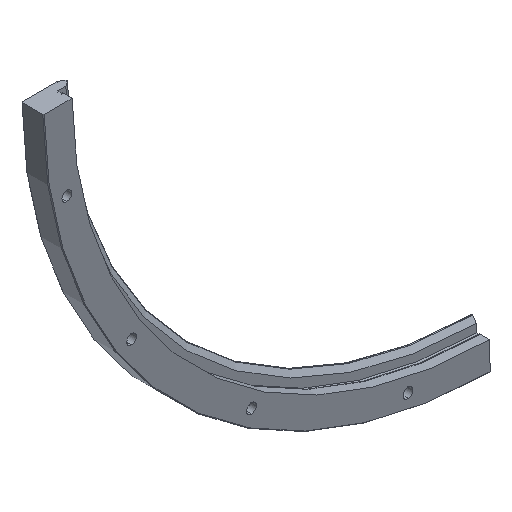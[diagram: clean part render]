
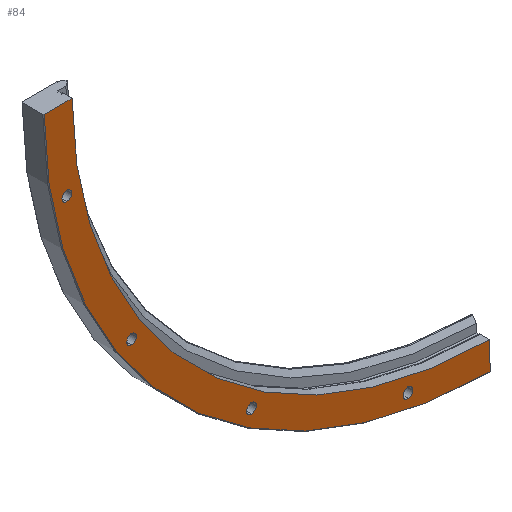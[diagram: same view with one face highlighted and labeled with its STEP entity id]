
A CAD part, isometric view. The second image highlights one B-rep face of the part: STEP entity #84.
In plain terms, the highlighted planar face has unit normal (0, -1, 0).
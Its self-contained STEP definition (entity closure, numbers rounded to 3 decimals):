
#84=ADVANCED_FACE('',(#129,#130,#131,#132,#133),#134,.T.);
#129=FACE_OUTER_BOUND('',#211,.T.);
#130=FACE_BOUND('',#212,.T.);
#131=FACE_BOUND('',#213,.T.);
#132=FACE_BOUND('',#214,.T.);
#133=FACE_BOUND('',#215,.T.);
#134=PLANE('',#216);
#211=EDGE_LOOP('',(#338,#339,#340,#341));
#212=EDGE_LOOP('',(#342,#343));
#213=EDGE_LOOP('',(#344,#345));
#214=EDGE_LOOP('',(#346,#347));
#215=EDGE_LOOP('',(#348,#349));
#216=AXIS2_PLACEMENT_3D('',#350,#351,#352);
#338=ORIENTED_EDGE('',*,*,#590,.F.);
#339=ORIENTED_EDGE('',*,*,#591,.T.);
#340=ORIENTED_EDGE('',*,*,#592,.F.);
#341=ORIENTED_EDGE('',*,*,#593,.F.);
#342=ORIENTED_EDGE('',*,*,#594,.T.);
#343=ORIENTED_EDGE('',*,*,#562,.T.);
#344=ORIENTED_EDGE('',*,*,#595,.T.);
#345=ORIENTED_EDGE('',*,*,#570,.T.);
#346=ORIENTED_EDGE('',*,*,#596,.T.);
#347=ORIENTED_EDGE('',*,*,#586,.T.);
#348=ORIENTED_EDGE('',*,*,#597,.T.);
#349=ORIENTED_EDGE('',*,*,#578,.T.);
#350=CARTESIAN_POINT('',(-313.25,-12.325,0.0));
#351=DIRECTION('',(0.0,-1.0,0.0));
#352=DIRECTION('',(0.0,0.0,-1.0));
#562=EDGE_CURVE('',#657,#658,#659,.T.);
#570=EDGE_CURVE('',#673,#674,#675,.T.);
#578=EDGE_CURVE('',#689,#690,#691,.T.);
#586=EDGE_CURVE('',#705,#706,#707,.T.);
#590=EDGE_CURVE('',#713,#714,#715,.T.);
#591=EDGE_CURVE('',#713,#716,#717,.T.);
#592=EDGE_CURVE('',#718,#716,#719,.T.);
#593=EDGE_CURVE('',#714,#718,#720,.T.);
#594=EDGE_CURVE('',#658,#657,#721,.T.);
#595=EDGE_CURVE('',#674,#673,#722,.T.);
#596=EDGE_CURVE('',#706,#705,#723,.T.);
#597=EDGE_CURVE('',#690,#689,#724,.T.);
#657=VERTEX_POINT('',#814);
#658=VERTEX_POINT('',#815);
#659=CIRCLE('',#816,3.4);
#673=VERTEX_POINT('',#834);
#674=VERTEX_POINT('',#835);
#675=CIRCLE('',#836,3.4);
#689=VERTEX_POINT('',#854);
#690=VERTEX_POINT('',#855);
#691=CIRCLE('',#856,3.4);
#705=VERTEX_POINT('',#874);
#706=VERTEX_POINT('',#875);
#707=CIRCLE('',#876,3.4);
#713=VERTEX_POINT('',#884);
#714=VERTEX_POINT('',#885);
#715=LINE('',#886,#887);
#716=VERTEX_POINT('',#888);
#717=CIRCLE('',#889,293.75);
#718=VERTEX_POINT('',#890);
#719=LINE('',#891,#892);
#720=CIRCLE('',#893,313.25);
#721=CIRCLE('',#894,3.4);
#722=CIRCLE('',#895,3.4);
#723=CIRCLE('',#896,3.4);
#724=CIRCLE('',#897,3.4);
#814=CARTESIAN_POINT('',(-59.161,-12.325,-300.823));
#815=CARTESIAN_POINT('',(-59.161,-12.325,-294.023));
#816=AXIS2_PLACEMENT_3D('',#1019,#1020,#1021);
#834=CARTESIAN_POINT('',(-168.477,-12.325,-255.543));
#835=CARTESIAN_POINT('',(-168.477,-12.325,-248.743));
#836=AXIS2_PLACEMENT_3D('',#1035,#1036,#1037);
#854=CARTESIAN_POINT('',(-252.143,-12.325,-171.877));
#855=CARTESIAN_POINT('',(-252.143,-12.325,-165.077));
#856=AXIS2_PLACEMENT_3D('',#1051,#1052,#1053);
#874=CARTESIAN_POINT('',(-297.423,-12.325,-62.561));
#875=CARTESIAN_POINT('',(-297.423,-12.325,-55.761));
#876=AXIS2_PLACEMENT_3D('',#1067,#1068,#1069);
#884=CARTESIAN_POINT('',(-2.,-12.325,-293.743));
#885=CARTESIAN_POINT('',(-2.,-12.325,-313.244));
#886=CARTESIAN_POINT('',(-2.,-12.325,-999.998));
#887=VECTOR('',#1075,1000.0);
#888=CARTESIAN_POINT('',(-293.743,-12.325,-2.));
#889=AXIS2_PLACEMENT_3D('',#1076,#1077,#1078);
#890=CARTESIAN_POINT('',(-313.244,-12.325,-2.));
#891=CARTESIAN_POINT('',(-999.998,-12.325,-2.));
#892=VECTOR('',#1079,1000.0);
#893=AXIS2_PLACEMENT_3D('',#1080,#1081,#1082);
#894=AXIS2_PLACEMENT_3D('',#1083,#1084,#1085);
#895=AXIS2_PLACEMENT_3D('',#1086,#1087,#1088);
#896=AXIS2_PLACEMENT_3D('',#1089,#1090,#1091);
#897=AXIS2_PLACEMENT_3D('',#1092,#1093,#1094);
#1019=CARTESIAN_POINT('',(-59.161,-12.325,-297.423));
#1020=DIRECTION('',(-0.0,1.0,0.0));
#1021=DIRECTION('',(0.0,0.0,1.0));
#1035=CARTESIAN_POINT('',(-168.477,-12.325,-252.143));
#1036=DIRECTION('',(-0.0,1.0,0.0));
#1037=DIRECTION('',(0.0,0.0,1.0));
#1051=CARTESIAN_POINT('',(-252.143,-12.325,-168.477));
#1052=DIRECTION('',(-0.0,1.0,0.0));
#1053=DIRECTION('',(0.0,0.0,1.0));
#1067=CARTESIAN_POINT('',(-297.423,-12.325,-59.161));
#1068=DIRECTION('',(-0.0,1.0,0.0));
#1069=DIRECTION('',(0.0,0.0,1.0));
#1075=DIRECTION('',(0.,-0.0,-1.0));
#1076=CARTESIAN_POINT('',(0.0,-12.325,0.0));
#1077=DIRECTION('',(-0.0,1.0,0.0));
#1078=DIRECTION('',(0.0,0.0,1.0));
#1079=DIRECTION('',(1.0,0.0,0.0));
#1080=CARTESIAN_POINT('',(0.0,-12.325,0.0));
#1081=DIRECTION('',(-0.0,1.0,0.0));
#1082=DIRECTION('',(0.0,0.0,1.0));
#1083=CARTESIAN_POINT('',(-59.161,-12.325,-297.423));
#1084=DIRECTION('',(-0.0,1.0,0.0));
#1085=DIRECTION('',(0.0,0.0,1.0));
#1086=CARTESIAN_POINT('',(-168.477,-12.325,-252.143));
#1087=DIRECTION('',(-0.0,1.0,0.0));
#1088=DIRECTION('',(0.0,0.0,1.0));
#1089=CARTESIAN_POINT('',(-297.423,-12.325,-59.161));
#1090=DIRECTION('',(-0.0,1.0,0.0));
#1091=DIRECTION('',(0.0,0.0,1.0));
#1092=CARTESIAN_POINT('',(-252.143,-12.325,-168.477));
#1093=DIRECTION('',(-0.0,1.0,0.0));
#1094=DIRECTION('',(0.0,0.0,1.0));
